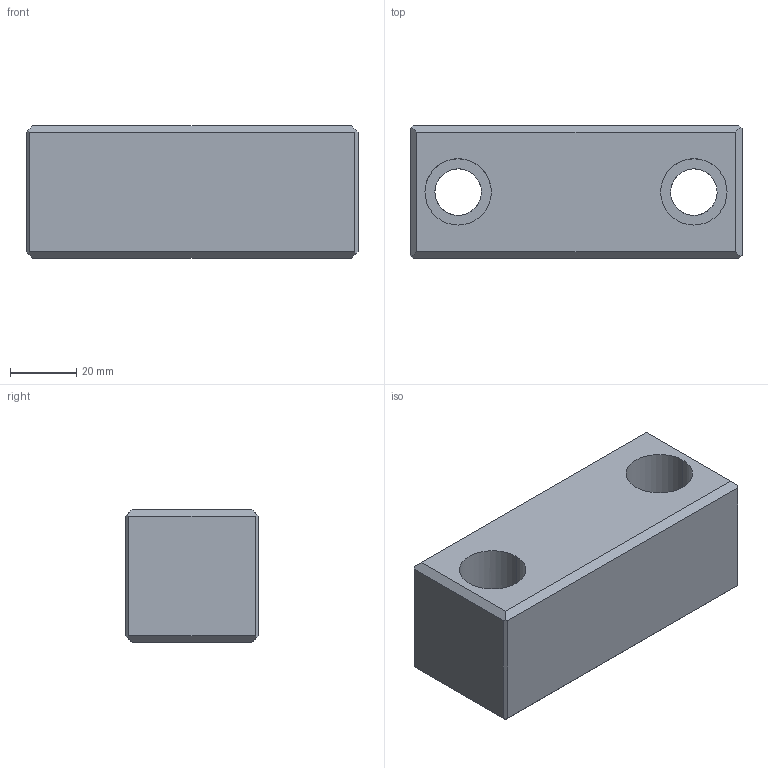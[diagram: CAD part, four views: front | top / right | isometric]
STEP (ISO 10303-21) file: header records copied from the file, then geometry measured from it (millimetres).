
FILE_DESCRIPTION(('CATIA V5 STEP Exchange'),'2;1');
FILE_NAME('C:\Users\Utente\Desktop\IO LAVORO\3D X SITO CF\X 3D SITO CF 27-09-2020\759\759+100+40+40+6.stp','2020-10-28T19:11:48+00:00',('none'),('none'),'CATIA Version 5 Release 20 GA (IN-10)','CATIA V5 STEP AP203','none');
FILE_SCHEMA(('CONFIG_CONTROL_DESIGN'));
Length unit declared in the file: millimetre
Products named in the file (1): 759+100+40+40+6
Bounding box: 100 x 40 x 40 mm (x, y, z)
Volume: 135618.6 mm3; surface area: 22628.1 mm2
Topology: 1 solids, 1 shells, 28 faces, 72 edges, 48 vertices
Faces by surface type: plane 20, cylinder 8
Entity records: 991 total; most frequent: CARTESIAN_POINT 264, ORIENTED_EDGE 144, DIRECTION 123, EDGE_CURVE 72, VECTOR 56, LINE 56, VERTEX_POINT 48, AXIS2_PLACEMENT_3D 40
